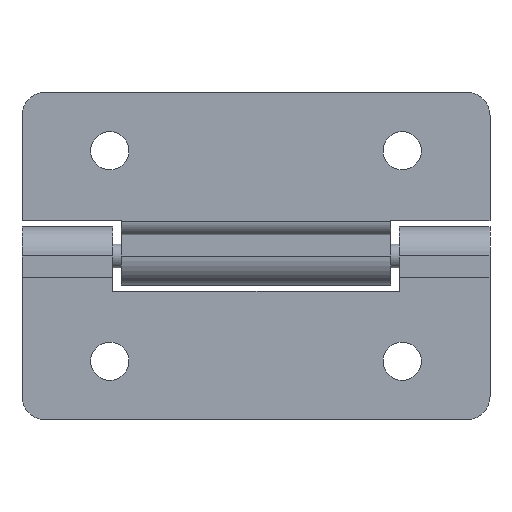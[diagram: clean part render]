
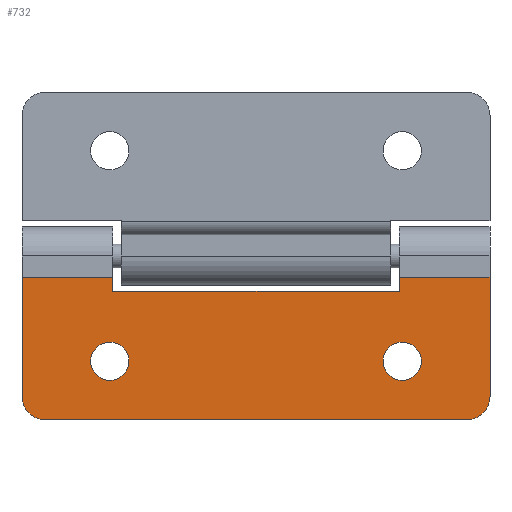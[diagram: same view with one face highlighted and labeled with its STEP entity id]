
A CAD part, front view. The second image highlights one B-rep face of the part: STEP entity #732.
In plain terms, the highlighted planar face has unit normal (0, -1, 0).
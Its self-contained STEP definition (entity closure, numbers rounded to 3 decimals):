
#10 = AXIS2_PLACEMENT_3D ( 'NONE', #1885, #1008, #321 ) ;
#30 = DIRECTION ( 'NONE',  ( 0., 1., 0. ) ) ;
#33 = CARTESIAN_POINT ( 'NONE',  ( 18., -3.5, -12. ) ) ;
#116 = CARTESIAN_POINT ( 'NONE',  ( -12.25, -3.5, -1.798 ) ) ;
#136 = CARTESIAN_POINT ( 'NONE',  ( -20., -3.5, -1.798 ) ) ;
#139 = EDGE_CURVE ( 'NONE', #1501, #878, #568, .T. ) ;
#173 = VERTEX_POINT ( 'NONE', #216 ) ;
#213 = CARTESIAN_POINT ( 'NONE',  ( -20., -3.5, -1.798 ) ) ;
#216 = CARTESIAN_POINT ( 'NONE',  ( 12.5, -3.5, -7.366 ) ) ;
#242 = CIRCLE ( 'NONE', #1496, 2. ) ;
#321 = DIRECTION ( 'NONE',  ( 0., 0., 1. ) ) ;
#332 = CARTESIAN_POINT ( 'NONE',  ( 20., -3.5, -1.798 ) ) ;
#346 = AXIS2_PLACEMENT_3D ( 'NONE', #2101, #1558, #2235 ) ;
#356 = CARTESIAN_POINT ( 'NONE',  ( -12.5, -3.5, -9. ) ) ;
#377 = CARTESIAN_POINT ( 'NONE',  ( 12.5, -3.5, -10.634 ) ) ;
#382 = LINE ( 'NONE', #1415, #1818 ) ;
#391 = VERTEX_POINT ( 'NONE', #2134 ) ;
#423 = DIRECTION ( 'NONE',  ( 0., 0., 1. ) ) ;
#484 = DIRECTION ( 'NONE',  ( -1., 0., 0. ) ) ;
#486 = ORIENTED_EDGE ( 'NONE', *, *, #857, .T. ) ;
#512 = EDGE_CURVE ( 'NONE', #1650, #173, #1675, .T. ) ;
#538 = VECTOR ( 'NONE', #1691, 1000. ) ;
#539 = ORIENTED_EDGE ( 'NONE', *, *, #1096, .F. ) ;
#543 = CARTESIAN_POINT ( 'NONE',  ( 18., -3.5, -14. ) ) ;
#559 = CIRCLE ( 'NONE', #346, 2. ) ;
#568 = LINE ( 'NONE', #1261, #2135 ) ;
#584 = VERTEX_POINT ( 'NONE', #817 ) ;
#629 = PLANE ( 'NONE',  #2108 ) ;
#672 = EDGE_CURVE ( 'NONE', #584, #1142, #1038, .T. ) ;
#673 = VERTEX_POINT ( 'NONE', #1199 ) ;
#675 = VERTEX_POINT ( 'NONE', #1180 ) ;
#701 = VECTOR ( 'NONE', #1995, 1000. ) ;
#724 = ORIENTED_EDGE ( 'NONE', *, *, #1189, .T. ) ;
#728 = VERTEX_POINT ( 'NONE', #116 ) ;
#732 = ADVANCED_FACE ( 'NONE', ( #1830, #2184, #1508 ), #629, .F. ) ;
#751 = CARTESIAN_POINT ( 'NONE',  ( -12.5, -3.5, -10.634 ) ) ;
#753 = CIRCLE ( 'NONE', #1360, 1.634 ) ;
#756 = ORIENTED_EDGE ( 'NONE', *, *, #1454, .T. ) ;
#769 = ORIENTED_EDGE ( 'NONE', *, *, #1045, .F. ) ;
#817 = CARTESIAN_POINT ( 'NONE',  ( 12.25, -3.5, -3. ) ) ;
#850 = VERTEX_POINT ( 'NONE', #1239 ) ;
#857 = EDGE_CURVE ( 'NONE', #1142, #728, #913, .T. ) ;
#860 = DIRECTION ( 'NONE',  ( 0., 1., 0. ) ) ;
#863 = DIRECTION ( 'NONE',  ( 0., 0., 1. ) ) ;
#867 = DIRECTION ( 'NONE',  ( 0., 0., 1. ) ) ;
#878 = VERTEX_POINT ( 'NONE', #939 ) ;
#898 = VERTEX_POINT ( 'NONE', #751 ) ;
#913 = LINE ( 'NONE', #1205, #1427 ) ;
#932 = EDGE_CURVE ( 'NONE', #850, #1725, #1678, .T. ) ;
#937 = ORIENTED_EDGE ( 'NONE', *, *, #1536, .T. ) ;
#939 = CARTESIAN_POINT ( 'NONE',  ( -18., -3.5, -14. ) ) ;
#964 = CARTESIAN_POINT ( 'NONE',  ( 20., -3.5, -1.798 ) ) ;
#968 = CIRCLE ( 'NONE', #1827, 1.634 ) ;
#1005 = DIRECTION ( 'NONE',  ( 0., 0., 1. ) ) ;
#1006 = ORIENTED_EDGE ( 'NONE', *, *, #139, .F. ) ;
#1008 = DIRECTION ( 'NONE',  ( 0., 1., 0. ) ) ;
#1038 = LINE ( 'NONE', #1190, #1641 ) ;
#1045 = EDGE_CURVE ( 'NONE', #850, #675, #1166, .T. ) ;
#1060 = VERTEX_POINT ( 'NONE', #136 ) ;
#1096 = EDGE_CURVE ( 'NONE', #584, #1725, #382, .T. ) ;
#1103 = ORIENTED_EDGE ( 'NONE', *, *, #512, .T. ) ;
#1120 = EDGE_CURVE ( 'NONE', #673, #878, #559, .T. ) ;
#1142 = VERTEX_POINT ( 'NONE', #1404 ) ;
#1166 = LINE ( 'NONE', #1850, #1716 ) ;
#1172 = CARTESIAN_POINT ( 'NONE',  ( 20., -3.5, -1.798 ) ) ;
#1177 = EDGE_CURVE ( 'NONE', #1060, #673, #1756, .T. ) ;
#1180 = CARTESIAN_POINT ( 'NONE',  ( 20., -3.5, -12. ) ) ;
#1189 = EDGE_CURVE ( 'NONE', #1501, #675, #242, .T. ) ;
#1190 = CARTESIAN_POINT ( 'NONE',  ( 12.25, -3.5, -3. ) ) ;
#1199 = CARTESIAN_POINT ( 'NONE',  ( -20., -3.5, -12. ) ) ;
#1205 = CARTESIAN_POINT ( 'NONE',  ( -12.25, -3.5, -3. ) ) ;
#1239 = CARTESIAN_POINT ( 'NONE',  ( 20., -3.5, -1.798 ) ) ;
#1261 = CARTESIAN_POINT ( 'NONE',  ( 20., -3.5, -14. ) ) ;
#1314 = VECTOR ( 'NONE', #1593, 1000. ) ;
#1360 = AXIS2_PLACEMENT_3D ( 'NONE', #356, #860, #1554 ) ;
#1375 = DIRECTION ( 'NONE',  ( 0., 0., 1. ) ) ;
#1404 = CARTESIAN_POINT ( 'NONE',  ( -12.25, -3.5, -3. ) ) ;
#1415 = CARTESIAN_POINT ( 'NONE',  ( 12.25, -3.5, -3. ) ) ;
#1427 = VECTOR ( 'NONE', #867, 1000. ) ;
#1434 = EDGE_LOOP ( 'NONE', ( #1566, #1103 ) ) ;
#1454 = EDGE_CURVE ( 'NONE', #898, #391, #2029, .T. ) ;
#1487 = LINE ( 'NONE', #964, #538 ) ;
#1496 = AXIS2_PLACEMENT_3D ( 'NONE', #33, #1603, #423 ) ;
#1501 = VERTEX_POINT ( 'NONE', #543 ) ;
#1508 = FACE_OUTER_BOUND ( 'NONE', #1755, .T. ) ;
#1512 = DIRECTION ( 'NONE',  ( 0., 1., 0. ) ) ;
#1534 = DIRECTION ( 'NONE',  ( 0., 1., 0. ) ) ;
#1536 = EDGE_CURVE ( 'NONE', #391, #898, #753, .T. ) ;
#1553 = EDGE_CURVE ( 'NONE', #173, #1650, #968, .T. ) ;
#1554 = DIRECTION ( 'NONE',  ( 0., 0., 1. ) ) ;
#1558 = DIRECTION ( 'NONE',  ( 0., -1., 0. ) ) ;
#1566 = ORIENTED_EDGE ( 'NONE', *, *, #1553, .T. ) ;
#1568 = ORIENTED_EDGE ( 'NONE', *, *, #1950, .T. ) ;
#1590 = CARTESIAN_POINT ( 'NONE',  ( 12.5, -3.5, -9. ) ) ;
#1593 = DIRECTION ( 'NONE',  ( 0., 0., -1. ) ) ;
#1603 = DIRECTION ( 'NONE',  ( 0., -1., 0. ) ) ;
#1627 = DIRECTION ( 'NONE',  ( -1., 0., 0. ) ) ;
#1641 = VECTOR ( 'NONE', #484, 1000. ) ;
#1650 = VERTEX_POINT ( 'NONE', #377 ) ;
#1675 = CIRCLE ( 'NONE', #10, 1.634 ) ;
#1678 = LINE ( 'NONE', #332, #701 ) ;
#1691 = DIRECTION ( 'NONE',  ( -1., 0., 0. ) ) ;
#1716 = VECTOR ( 'NONE', #2027, 1000. ) ;
#1725 = VERTEX_POINT ( 'NONE', #2130 ) ;
#1755 = EDGE_LOOP ( 'NONE', ( #2229, #2161, #1006, #724, #769, #2131, #539, #1895, #486, #1568 ) ) ;
#1756 = LINE ( 'NONE', #213, #1314 ) ;
#1805 = EDGE_LOOP ( 'NONE', ( #937, #756 ) ) ;
#1818 = VECTOR ( 'NONE', #863, 1000. ) ;
#1827 = AXIS2_PLACEMENT_3D ( 'NONE', #1590, #30, #1375 ) ;
#1830 = FACE_BOUND ( 'NONE', #1805, .T. ) ;
#1850 = CARTESIAN_POINT ( 'NONE',  ( 20., -3.5, -1.798 ) ) ;
#1885 = CARTESIAN_POINT ( 'NONE',  ( 12.5, -3.5, -9. ) ) ;
#1892 = AXIS2_PLACEMENT_3D ( 'NONE', #2188, #1512, #1005 ) ;
#1895 = ORIENTED_EDGE ( 'NONE', *, *, #672, .T. ) ;
#1950 = EDGE_CURVE ( 'NONE', #728, #1060, #1487, .T. ) ;
#1995 = DIRECTION ( 'NONE',  ( -1., 0., 0. ) ) ;
#2027 = DIRECTION ( 'NONE',  ( 0., 0., -1. ) ) ;
#2029 = CIRCLE ( 'NONE', #1892, 1.634 ) ;
#2101 = CARTESIAN_POINT ( 'NONE',  ( -18., -3.5, -12. ) ) ;
#2108 = AXIS2_PLACEMENT_3D ( 'NONE', #1172, #1534, #2218 ) ;
#2130 = CARTESIAN_POINT ( 'NONE',  ( 12.25, -3.5, -1.798 ) ) ;
#2131 = ORIENTED_EDGE ( 'NONE', *, *, #932, .T. ) ;
#2134 = CARTESIAN_POINT ( 'NONE',  ( -12.5, -3.5, -7.366 ) ) ;
#2135 = VECTOR ( 'NONE', #1627, 1000. ) ;
#2161 = ORIENTED_EDGE ( 'NONE', *, *, #1120, .T. ) ;
#2184 = FACE_BOUND ( 'NONE', #1434, .T. ) ;
#2188 = CARTESIAN_POINT ( 'NONE',  ( -12.5, -3.5, -9. ) ) ;
#2218 = DIRECTION ( 'NONE',  ( 0., 0., 1. ) ) ;
#2229 = ORIENTED_EDGE ( 'NONE', *, *, #1177, .T. ) ;
#2235 = DIRECTION ( 'NONE',  ( 0., 0., 1. ) ) ;
